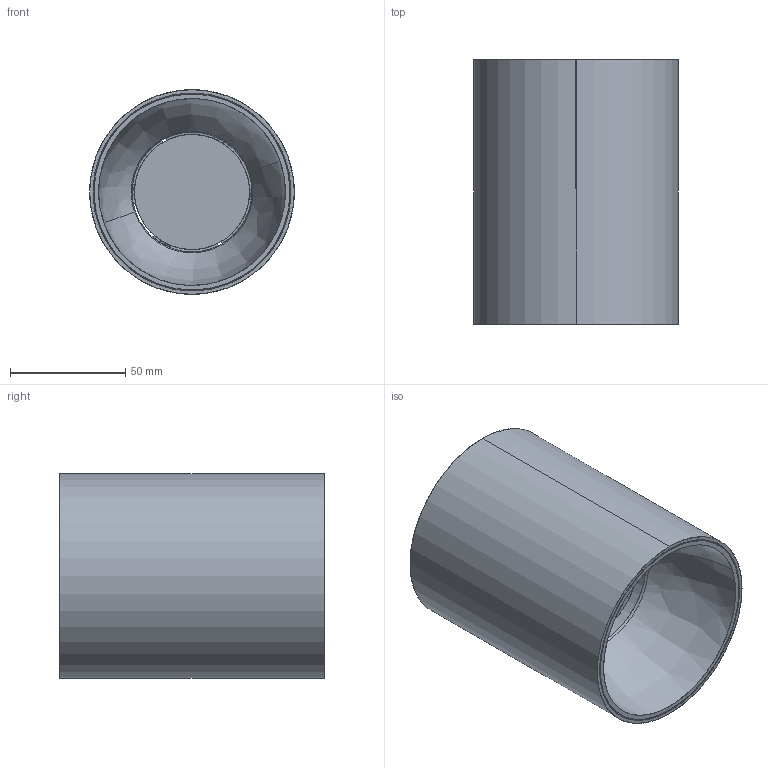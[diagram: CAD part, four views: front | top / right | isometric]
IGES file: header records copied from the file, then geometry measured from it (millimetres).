
Start section: SolidWorks IGES file using analytic representation for surfaces
Global section: file name: F:\GABRYSIA\MODELE 3D\EYE-TONE-8932-8928-8931-8926-8930-8925-WWW\EYE-TONE-8932-8928-8931-8926-8930-8925-WWW\EYE-TONE-8932-8928-8931-8926-8930-8925.IGS; native system: SolidWorks 2017; preprocessor: SolidWorks 2017; author: Togambi; date: 200909.085746; units: millimetre
Bounding box: 88.9 x 115 x 88.9 mm (x, y, z)
Surface area: 113080.4 mm2 (no closed solid volume)
Topology: 0 solids, 0 shells, 283 faces, 4042 edges, 4041 vertices
Faces by surface type: bspline 148, revolution 135
